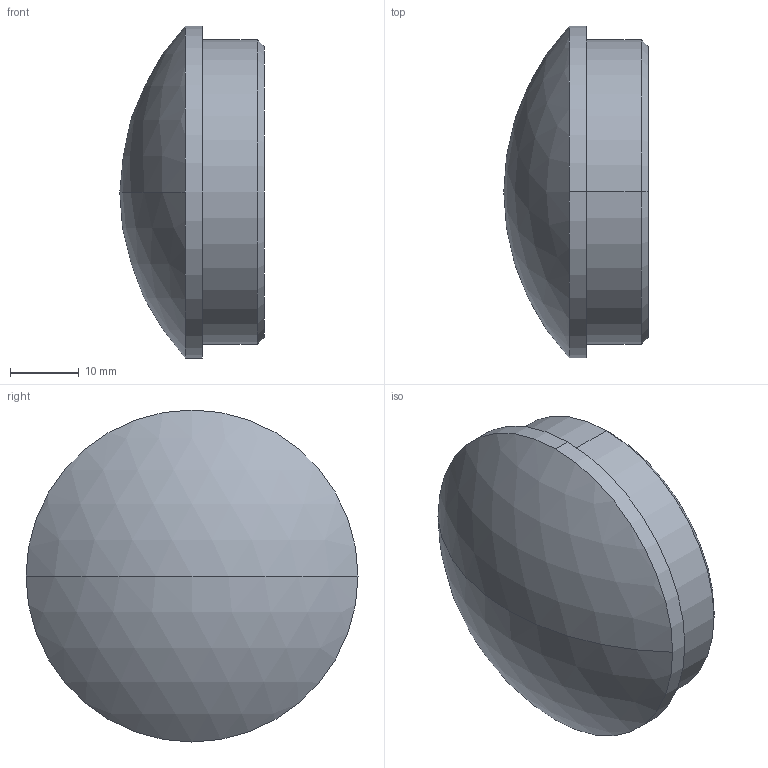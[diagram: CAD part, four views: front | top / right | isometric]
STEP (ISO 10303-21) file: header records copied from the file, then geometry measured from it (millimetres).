
FILE_DESCRIPTION (( 'STEP AP203' ), '1' );
FILE_NAME ('3D_GR1392_DN48.3x2_18380256.STEP', '2024-09-21T10:23:52', ( '' ), ( '' ), 'SwSTEP 2.0', 'SolidWorks 2024', '' );
FILE_SCHEMA (( 'CONFIG_CONTROL_DESIGN' ));
Length unit declared in the file: millimetre
Products named in the file (1): 3D_GR1392_DN48.3x2_18380256
Bounding box: 21 x 48.3 x 48.3 mm (x, y, z)
Volume: 27536.2 mm3; surface area: 5497.1 mm2
Topology: 1 solids, 1 shells, 10 faces, 20 edges, 13 vertices
Faces by surface type: cylinder 4, cone 2, sphere 2, plane 2
Entity records: 347 total; most frequent: DIRECTION 56, CARTESIAN_POINT 44, ORIENTED_EDGE 40, AXIS2_PLACEMENT_3D 25, EDGE_CURVE 20, CIRCLE 14, VERTEX_POINT 13, EDGE_LOOP 11
